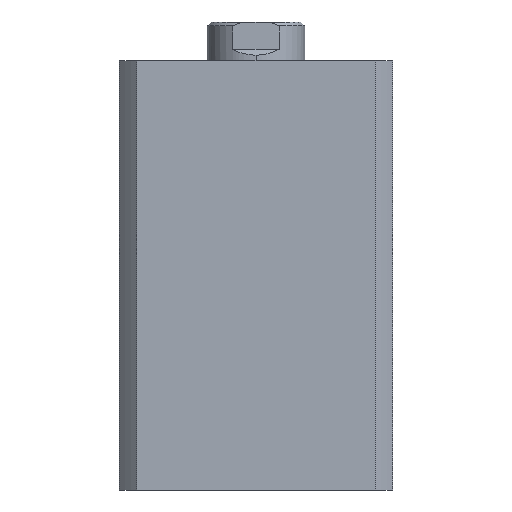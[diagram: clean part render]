
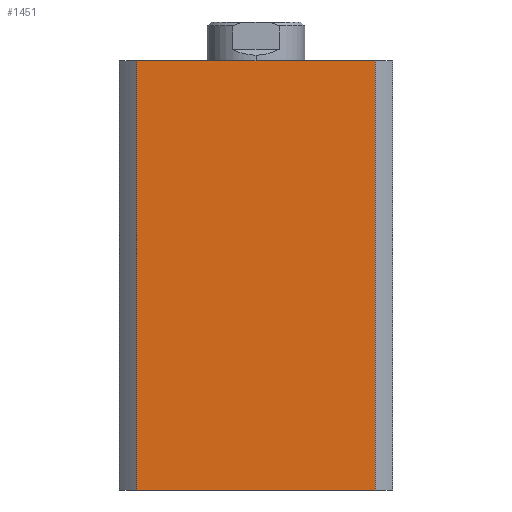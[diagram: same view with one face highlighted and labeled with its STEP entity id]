
A CAD part, left-side view. The second image highlights one B-rep face of the part: STEP entity #1451.
In plain terms, the highlighted planar face has unit normal (-1, 0, 0).
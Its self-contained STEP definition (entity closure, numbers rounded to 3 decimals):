
#284 = FACE_OUTER_BOUND ( 'NONE', #4291, .T. ) ;
#1176 = EDGE_CURVE ( 'NONE', #1744, #1705, #1553, .T. ) ;
#1191 = EDGE_CURVE ( 'NONE', #4060, #1744, #1536, .T. ) ;
#1232 = EDGE_CURVE ( 'NONE', #4060, #4104, #1480, .T. ) ;
#1233 = EDGE_CURVE ( 'NONE', #4104, #1705, #1478, .T. ) ;
#1451 = ADVANCED_FACE ( 'NONE', ( #284 ), #3871, .F. ) ;
#1475 = VECTOR ( 'NONE', #2212, 1000. ) ;
#1477 = VECTOR ( 'NONE', #2232, 1000. ) ;
#1478 = LINE ( 'NONE', #2226, #1475 ) ;
#1480 = LINE ( 'NONE', #2275, #1477 ) ;
#1529 = VECTOR ( 'NONE', #4391, 1000. ) ;
#1536 = LINE ( 'NONE', #4354, #1529 ) ;
#1548 = VECTOR ( 'NONE', #4327, 1000. ) ;
#1553 = LINE ( 'NONE', #4330, #1548 ) ;
#1705 = VERTEX_POINT ( 'NONE', #4014 ) ;
#1744 = VERTEX_POINT ( 'NONE', #2782 ) ;
#2212 = DIRECTION ( 'NONE',  ( 0., 0., -1. ) ) ;
#2226 = CARTESIAN_POINT ( 'NONE',  ( -35., -30.615, 110. ) ) ;
#2232 = DIRECTION ( 'NONE',  ( 0., -1., 0. ) ) ;
#2275 = CARTESIAN_POINT ( 'NONE',  ( -35., 0., 110. ) ) ;
#2782 = CARTESIAN_POINT ( 'NONE',  ( -35., 30.615, 0. ) ) ;
#2807 = CARTESIAN_POINT ( 'NONE',  ( -35., 30.615, 110. ) ) ;
#2851 = CARTESIAN_POINT ( 'NONE',  ( -35., -30.615, 110. ) ) ;
#3406 = AXIS2_PLACEMENT_3D ( 'NONE', #3865, #3873, #3874 ) ;
#3865 = CARTESIAN_POINT ( 'NONE',  ( -35., 0., 110. ) ) ;
#3871 = PLANE ( 'NONE',  #3406 ) ;
#3873 = DIRECTION ( 'NONE',  ( 1., 0., 0. ) ) ;
#3874 = DIRECTION ( 'NONE',  ( 0., 1., 0. ) ) ;
#4014 = CARTESIAN_POINT ( 'NONE',  ( -35., -30.615, 0. ) ) ;
#4060 = VERTEX_POINT ( 'NONE', #2807 ) ;
#4104 = VERTEX_POINT ( 'NONE', #2851 ) ;
#4291 = EDGE_LOOP ( 'NONE', ( #4880, #4881, #4882, #4883 ) ) ;
#4327 = DIRECTION ( 'NONE',  ( 0., -1., 0. ) ) ;
#4330 = CARTESIAN_POINT ( 'NONE',  ( -35., 0., 0. ) ) ;
#4354 = CARTESIAN_POINT ( 'NONE',  ( -35., 30.615, 110. ) ) ;
#4391 = DIRECTION ( 'NONE',  ( 0., 0., -1. ) ) ;
#4880 = ORIENTED_EDGE ( 'NONE', *, *, #1176, .T. ) ;
#4881 = ORIENTED_EDGE ( 'NONE', *, *, #1233, .F. ) ;
#4882 = ORIENTED_EDGE ( 'NONE', *, *, #1232, .F. ) ;
#4883 = ORIENTED_EDGE ( 'NONE', *, *, #1191, .T. ) ;
